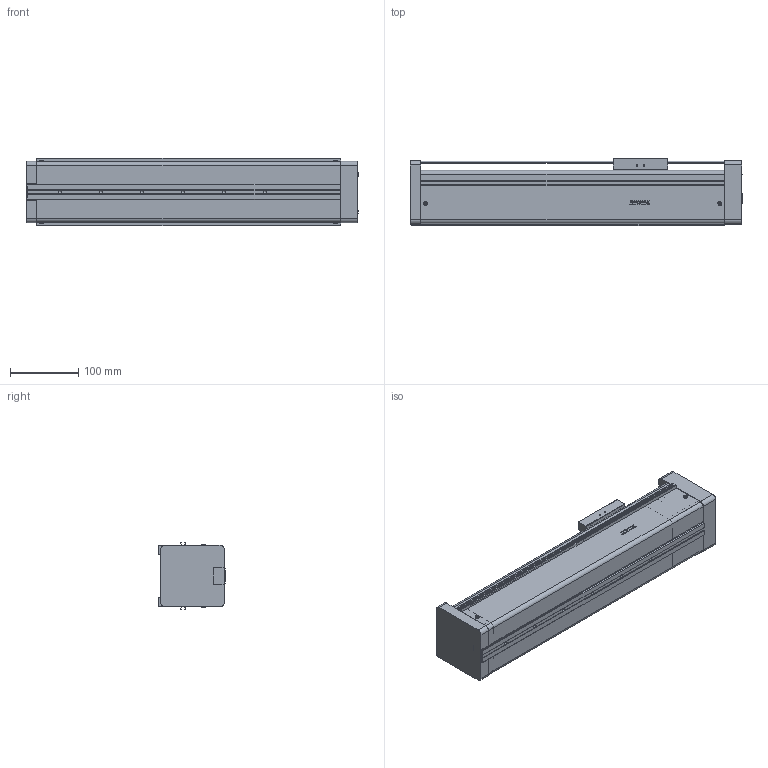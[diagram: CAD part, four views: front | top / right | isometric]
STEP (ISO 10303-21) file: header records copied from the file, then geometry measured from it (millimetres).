
FILE_DESCRIPTION(/* description */ (''),/* implementation_level */ '2;1');
FILE_NAME(/* name */ 'D:\混合母檔20191031\混和母檔\混和母檔\bin\Debug\Download\3D\KE905C-250AF0\KE905C-250AF0.stp',/* time_stamp */ '2019-11-04T14:16:19+08:00',/* author */ ('user'),/* organization */ (''),/* preprocessor_version */ 'ST-DEVELOPER v16.13',/* originating_system */ 'Autodesk Inventor 2018',/* authorisation */ '');
FILE_SCHEMA (('AUTOMOTIVE_DESIGN { 1 0 10303 214 3 1 1 }'));
Length unit declared in the file: millimetre
Products named in the file (3): KE905C-250AF0; KE90-F0-BP; KE90-SL
Assembly tree (2 placements, depth 2):
  KE905C-250AF0
    KE90-F0-BP
    KE90-SL
Bounding box: 486 x 98 x 98.4 mm (x, y, z)
Volume: 3381944.7 mm3; surface area: 335686.6 mm2
Topology: 3 solids, 22 shells, 873 faces, 2312 edges, 1526 vertices
Faces by surface type: plane 494, bspline 136, cone 116, cylinder 79, torus 40, sphere 8
Full cylindrical faces by diameter (mm): 2.5 x16, 3 x2, 3.3 x4, 4.2 x4, 4.5 x6, 4.917 x6, 5 x9, 8 x7, 46 x1, 50 x1
Entity records: 30528 total; most frequent: CARTESIAN_POINT 9556, ORIENTED_EDGE 4358, DIRECTION 3837, EDGE_CURVE 2179, VERTEX_POINT 1489, AXIS2_PLACEMENT_3D 1296, LINE 1245, VECTOR 1245
